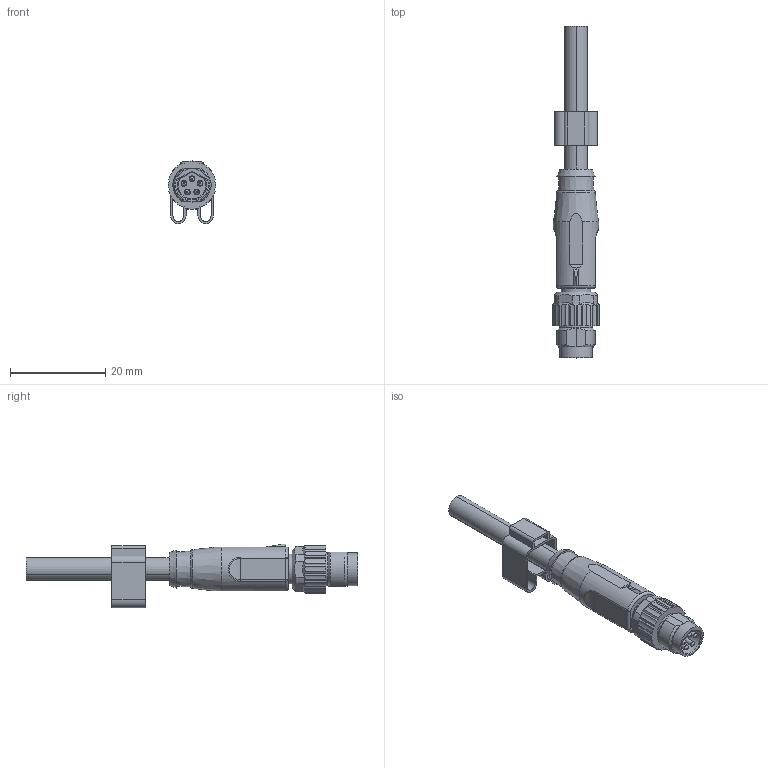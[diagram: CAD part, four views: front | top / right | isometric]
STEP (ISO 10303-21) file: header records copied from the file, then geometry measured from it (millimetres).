
FILE_DESCRIPTION(/* description */ (''),/* implementation_level */ '2;1');
FILE_NAME(/* name */ 'K:\Step\42\42K1A2061.stp',/* time_stamp */ '2021-01-12T08:04:13+01:00',/* author */ ('ruthchristen'),/* organization */ (''),/* preprocessor_version */ 'ST-DEVELOPER v17',/* originating_system */ 'Autodesk Inventor 2018',/* authorisation */ '');
FILE_SCHEMA (('AUTOMOTIVE_DESIGN { 1 0 10303 214 3 1 1 }'));
Length unit declared in the file: millimetre
Products named in the file (1): Bauteil1
Bounding box: 10.05 x 69.6 x 13.3 mm (x, y, z)
Volume: 2956.3 mm3; surface area: 2636.4 mm2
Topology: 2 solids, 2 shells, 582 faces, 1669 edges, 1111 vertices
Faces by surface type: plane 480, cylinder 71, cone 14, bspline 7, torus 6, sphere 4
Full cylindrical faces by diameter (mm): 1 x5, 1.2 x5, 6.25 x1, 6.9 x2
Entity records: 19681 total; most frequent: CARTESIAN_POINT 3870, ORIENTED_EDGE 3330, DIRECTION 2918, EDGE_CURVE 1665, LINE 1376, VECTOR 1376, VERTEX_POINT 1111, AXIS2_PLACEMENT_3D 771
